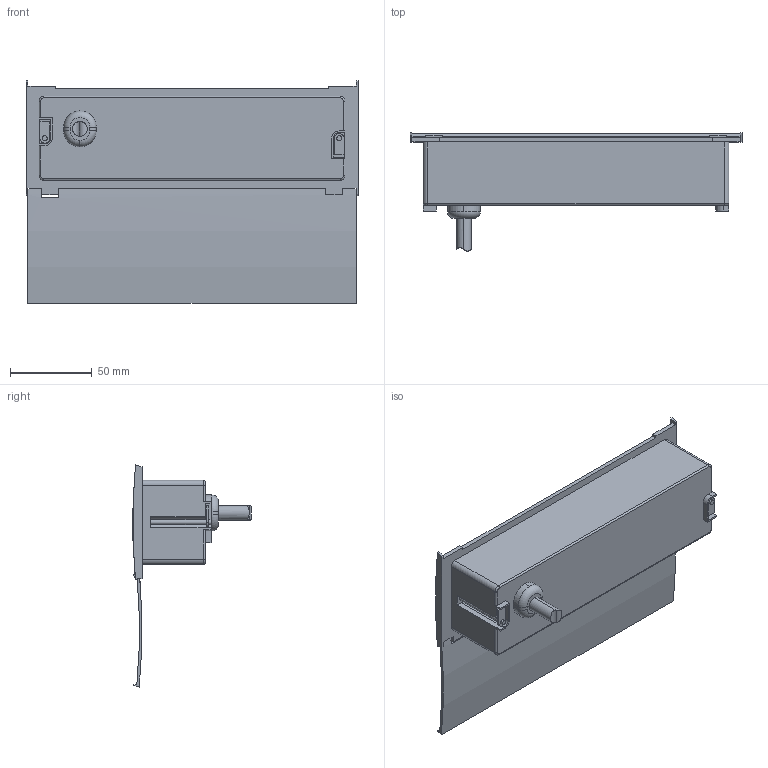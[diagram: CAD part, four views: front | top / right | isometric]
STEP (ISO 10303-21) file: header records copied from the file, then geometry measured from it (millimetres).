
FILE_DESCRIPTION (( 'STEP AP203' ), '1' );
FILE_NAME ('14-0942_KAPSA.STEP', '2026-01-19T05:38:27', ( '' ), ( '' ), 'SwSTEP 2.0', 'SolidWorks 2025', '' );
FILE_SCHEMA (( 'CONFIG_CONTROL_DESIGN' ));
Length unit declared in the file: millimetre
Products named in the file (1): 14-0942_KAPSA
Bounding box: 203.3 x 72.39 x 136 mm (x, y, z)
Volume: 430344.9 mm3; surface area: 81467.5 mm2
Topology: 1 solids, 1 shells, 253 faces, 661 edges, 432 vertices
Faces by surface type: plane 192, cylinder 54, torus 7
Entity records: 7881 total; most frequent: CARTESIAN_POINT 1429, ORIENTED_EDGE 1322, DIRECTION 1310, EDGE_CURVE 661, LINE 516, VECTOR 516, VERTEX_POINT 432, AXIS2_PLACEMENT_3D 397
